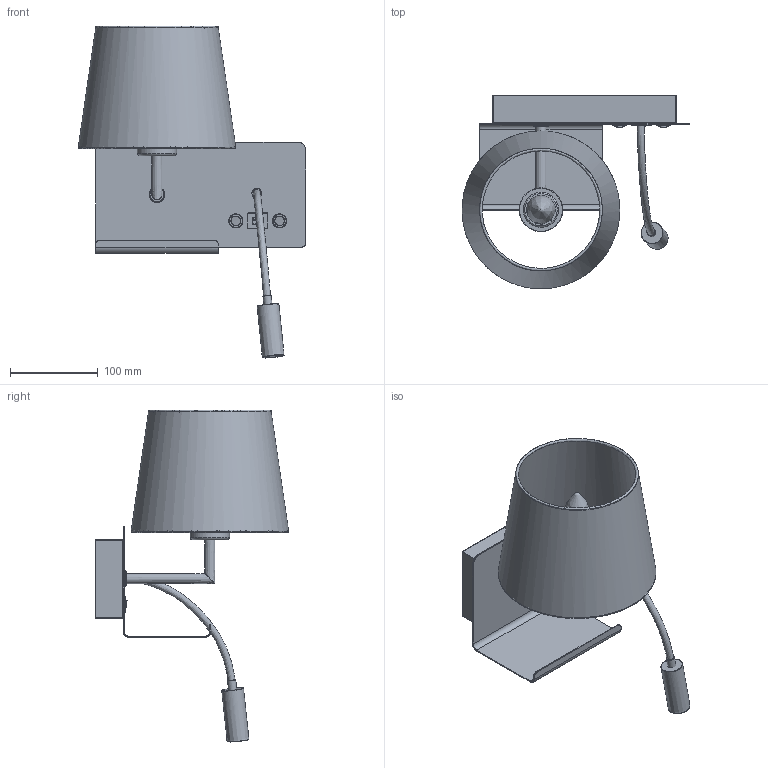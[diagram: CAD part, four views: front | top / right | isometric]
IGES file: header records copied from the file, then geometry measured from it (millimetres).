
Global section: file name: C:\Users\EQUIPO\Desktop\COLECCIONES ACB MODELADAS 3D OK\HOLD\hold-16-3664-e27+led-derecha....igs; native system: Rhinoceros ( Oct  8 2013 ); preprocessor: Trout Lake IGES 012 Oct  8 2013; date: 190201.182329; units: millimetre
Bounding box: 260 x 220.75 x 378.96 mm (x, y, z)
Surface area: 285870.4 mm2 (no closed solid volume)
Topology: 0 solids, 0 shells, 168 faces, 1221 edges, 1176 vertices
Faces by surface type: bspline 168
